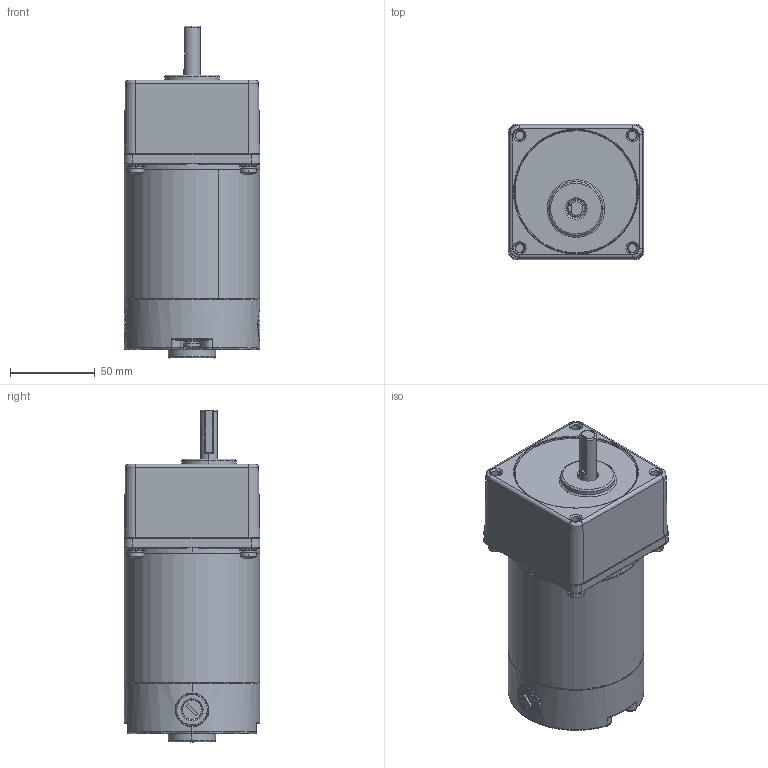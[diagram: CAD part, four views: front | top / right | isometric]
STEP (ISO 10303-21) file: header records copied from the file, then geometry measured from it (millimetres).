
FILE_DESCRIPTION (( 'STEP AP203' ), '1' );
FILE_NAME ('80饜4GN喘謫眊-76儂褲.STEP', '2021-07-12T09:57:19', ( '' ), ( '' ), 'SwSTEP 2.0', 'SolidWorks 2021', '' );
FILE_SCHEMA (( 'CONFIG_CONTROL_DESIGN' ));
Length unit declared in the file: millimetre
Products named in the file (8): 80-2_1; TANDIAN_1; JIKEI-80_1_1_1; HOUGAI-80-1_1; PENGDIAN_1; LUDING_1; 80饜4GN喘謫眊-76儂褲; QIANGAI-80_1_1
Assembly tree (22 placements, depth 2):
  80饜4GN喘謫眊-76儂褲
    LUDING_1  x6
    TANDIAN_1  x6
    PENGDIAN_1  x6
    QIANGAI-80_1_1
    HOUGAI-80-1_1
    JIKEI-80_1_1_1
    80-2_1
Bounding box: 80 x 80 x 196 mm (x, y, z)
Volume: 434442.1 mm3; surface area: 119397.9 mm2
Topology: 26 solids, 26 shells, 751 faces, 1848 edges, 1165 vertices
Faces by surface type: cylinder 252, plane 206, cone 203, bspline 90
Entity records: 18612 total; most frequent: CARTESIAN_POINT 7391, ORIENTED_EDGE 2104, DIRECTION 2078, EDGE_CURVE 1052, AXIS2_PLACEMENT_3D 823, VERTEX_POINT 660, EDGE_LOOP 498, CIRCLE 437
